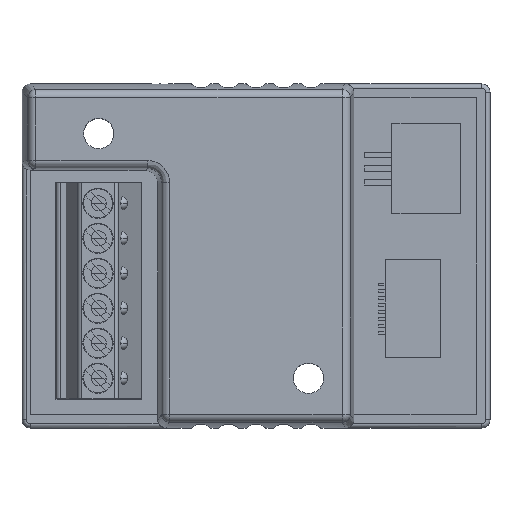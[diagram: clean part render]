
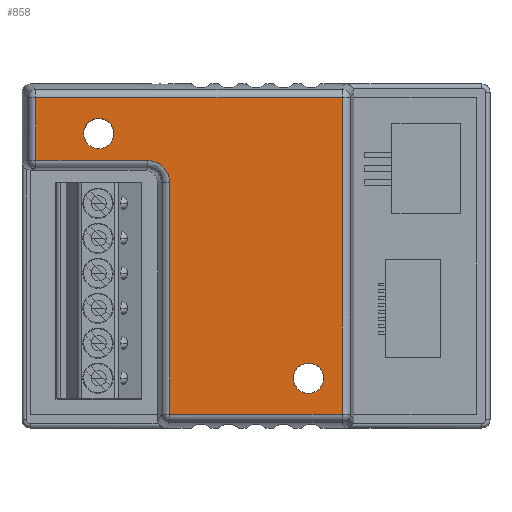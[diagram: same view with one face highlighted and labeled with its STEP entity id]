
A CAD part, top view. The second image highlights one B-rep face of the part: STEP entity #858.
In plain terms, the highlighted planar face has unit normal (0, 0, 1).
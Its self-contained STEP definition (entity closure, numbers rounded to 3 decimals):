
#193=CIRCLE('',#7421,1.1);
#194=CIRCLE('',#7422,1.1);
#858=ADVANCED_FACE('',(#1590,#1591,#1592),#1298,.T.);
#1298=PLANE('',#7423);
#1590=FACE_BOUND('',#1683,.T.);
#1591=FACE_BOUND('',#1684,.T.);
#1592=FACE_BOUND('',#1685,.T.);
#1683=EDGE_LOOP('',(#3703,#3704,#3705,#3706,#3707,#3708,#3709));
#1684=EDGE_LOOP('',(#3710));
#1685=EDGE_LOOP('',(#3711));
#2172=ELLIPSE('',#7420,1.607,1.6);
#2297=LINE('',#10577,#2984);
#2298=LINE('',#10580,#2985);
#2299=LINE('',#10582,#2986);
#2300=LINE('',#10586,#2987);
#2301=LINE('',#10588,#2988);
#2302=LINE('',#10590,#2989);
#2984=VECTOR('',#8248,1.);
#2985=VECTOR('',#8249,1.);
#2986=VECTOR('',#8250,1.);
#2987=VECTOR('',#8253,1.);
#2988=VECTOR('',#8254,1.);
#2989=VECTOR('',#8255,1.);
#3703=ORIENTED_EDGE('',*,*,#6420,.T.);
#3704=ORIENTED_EDGE('',*,*,#6421,.T.);
#3705=ORIENTED_EDGE('',*,*,#6422,.T.);
#3706=ORIENTED_EDGE('',*,*,#6423,.T.);
#3707=ORIENTED_EDGE('',*,*,#6424,.T.);
#3708=ORIENTED_EDGE('',*,*,#6425,.T.);
#3709=ORIENTED_EDGE('',*,*,#6426,.T.);
#3710=ORIENTED_EDGE('',*,*,#6427,.T.);
#3711=ORIENTED_EDGE('',*,*,#6428,.T.);
#5761=VERTEX_POINT('',#10578);
#5762=VERTEX_POINT('',#10579);
#5763=VERTEX_POINT('',#10581);
#5764=VERTEX_POINT('',#10583);
#5765=VERTEX_POINT('',#10585);
#5766=VERTEX_POINT('',#10587);
#5767=VERTEX_POINT('',#10589);
#5768=VERTEX_POINT('',#10592);
#5769=VERTEX_POINT('',#10594);
#6420=EDGE_CURVE('',#5761,#5762,#2297,.T.);
#6421=EDGE_CURVE('',#5762,#5763,#2298,.T.);
#6422=EDGE_CURVE('',#5763,#5764,#2299,.T.);
#6423=EDGE_CURVE('',#5764,#5765,#2172,.T.);
#6424=EDGE_CURVE('',#5765,#5766,#2300,.T.);
#6425=EDGE_CURVE('',#5766,#5767,#2301,.T.);
#6426=EDGE_CURVE('',#5767,#5761,#2302,.T.);
#6427=EDGE_CURVE('',#5768,#5768,#193,.T.);
#6428=EDGE_CURVE('',#5769,#5769,#194,.T.);
#7420=AXIS2_PLACEMENT_3D('',#10584,#8251,#8252);
#7421=AXIS2_PLACEMENT_3D('',#10591,#8256,#8257);
#7422=AXIS2_PLACEMENT_3D('',#10593,#8258,#8259);
#7423=AXIS2_PLACEMENT_3D('',#10595,#8260,#8261);
#8248=DIRECTION('',(-1.,0.,0.));
#8249=DIRECTION('',(0.,-1.,0.));
#8250=DIRECTION('',(1.,0.,0.));
#8251=DIRECTION('',(0.,0.,-1.));
#8252=DIRECTION('',(0.929,0.371,0.));
#8253=DIRECTION('',(0.,-1.,0.));
#8254=DIRECTION('',(1.,0.,0.));
#8255=DIRECTION('',(0.,1.,0.));
#8256=DIRECTION('',(0.,0.,-1.));
#8257=DIRECTION('',(-1.,0.,0.));
#8258=DIRECTION('',(0.,0.,-1.));
#8259=DIRECTION('',(-1.,0.,0.));
#8260=DIRECTION('',(0.,0.,1.));
#8261=DIRECTION('',(1.,0.,0.));
#10577=CARTESIAN_POINT('',(0.,11.493,8.));
#10578=CARTESIAN_POINT('',(6.253,11.493,8.));
#10579=CARTESIAN_POINT('',(-15.993,11.493,8.));
#10580=CARTESIAN_POINT('',(-15.993,6.954,8.));
#10581=CARTESIAN_POINT('',(-15.993,6.938,8.));
#10582=CARTESIAN_POINT('',(-7.833,6.938,8.));
#10583=CARTESIAN_POINT('',(-7.884,6.938,8.));
#10584=CARTESIAN_POINT('',(-7.889,5.337,8.));
#10585=CARTESIAN_POINT('',(-6.283,5.342,8.));
#10586=CARTESIAN_POINT('',(-6.283,-11.348,8.));
#10587=CARTESIAN_POINT('',(-6.283,-11.493,8.));
#10588=CARTESIAN_POINT('',(0.,-11.493,8.));
#10589=CARTESIAN_POINT('',(6.253,-11.493,8.));
#10590=CARTESIAN_POINT('',(6.253,11.348,8.));
#10591=CARTESIAN_POINT('',(3.81,-8.89,8.));
#10592=CARTESIAN_POINT('',(2.71,-8.89,8.));
#10593=CARTESIAN_POINT('',(-11.43,8.89,8.));
#10594=CARTESIAN_POINT('',(-12.53,8.89,8.));
#10595=CARTESIAN_POINT('',(0.,0.,8.));
